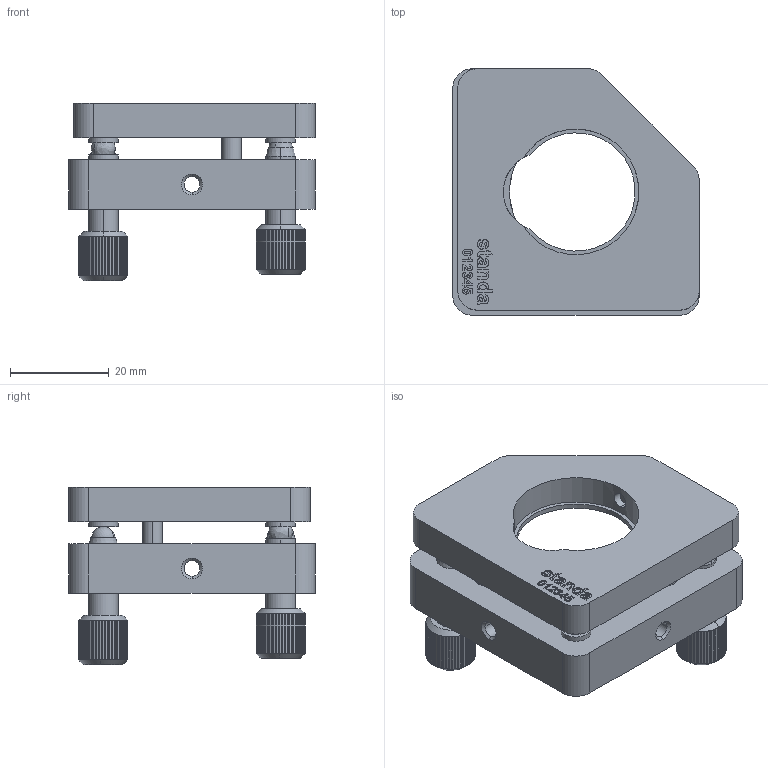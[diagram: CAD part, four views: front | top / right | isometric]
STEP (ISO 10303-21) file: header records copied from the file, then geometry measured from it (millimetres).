
FILE_DESCRIPTION (( 'STEP AP203' ), '1' );
FILE_NAME ('5BM131.STEP', '2008-05-20T14:25:46', ( 'STANDA' ), ( '' ), 'SwSTEP 2.0', 'SolidWorks 2003240', '' );
FILE_SCHEMA (( 'CONFIG_CONTROL_DESIGN' ));
Products named in the file (1): 5BM131
Bounding box: 50 x 50 x 36 mm (x, y, z)
Volume: 24281.9 mm3; surface area: 11388.8 mm2
Topology: 1 solids, 1 shells, 1020 faces, 2505 edges, 1520 vertices
Faces by surface type: plane 790, bspline 126, cylinder 58, cone 46
Entity records: 37075 total; most frequent: CARTESIAN_POINT 13597, ORIENTED_EDGE 4994, DIRECTION 4619, EDGE_CURVE 2497, VECTOR 1573, LINE 1573, AXIS2_PLACEMENT_3D 1523, VERTEX_POINT 1520
